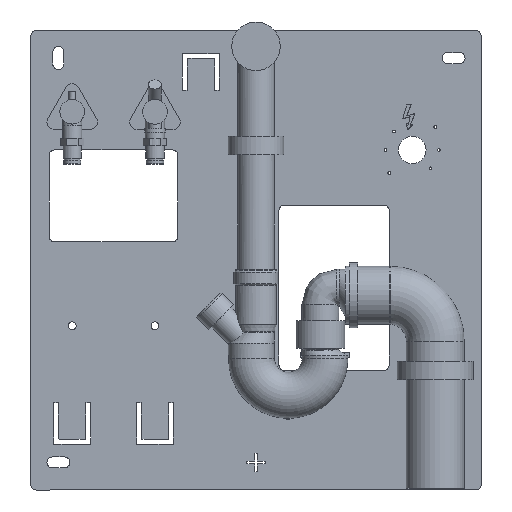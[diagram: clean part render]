
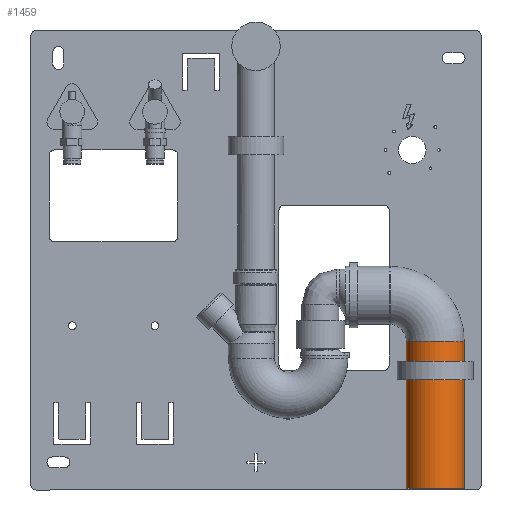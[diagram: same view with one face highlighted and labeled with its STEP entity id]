
A CAD part, front view. The second image highlights one B-rep face of the part: STEP entity #1459.
In plain terms, the highlighted cylindrical face has radius 31.5 mm (diameter 63 mm), a full revolution.
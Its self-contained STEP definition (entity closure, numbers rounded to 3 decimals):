
#1459=ADVANCED_FACE('',(#2960,#2961),#2962,.T.);
#2960=FACE_BOUND('',#5050,.T.);
#2961=FACE_BOUND('',#5051,.T.);
#2962=CYLINDRICAL_SURFACE('',#5052,31.5);
#5050=EDGE_LOOP('',(#6324));
#5051=EDGE_LOOP('',(#6325));
#5052=AXIS2_PLACEMENT_3D('',#6326,#6327,#6328);
#6324=ORIENTED_EDGE('',*,*,#9363,.T.);
#6325=ORIENTED_EDGE('',*,*,#9364,.F.);
#6326=CARTESIAN_POINT('',(253.235,-50.0,190.0));
#6327=DIRECTION('',(0.,0.,-1.0));
#6328=DIRECTION('',(0.,1.0,0.));
#9363=EDGE_CURVE('',#11902,#11902,#11903,.T.);
#9364=EDGE_CURVE('',#11904,#11904,#11905,.T.);
#11902=VERTEX_POINT('',#13622);
#11903=CIRCLE('',#13623,31.5);
#11904=VERTEX_POINT('',#13624);
#11905=CIRCLE('',#13625,31.5);
#13622=CARTESIAN_POINT('',(221.735,-50.0,350.));
#13623=AXIS2_PLACEMENT_3D('',#15541,#15542,#15543);
#13624=CARTESIAN_POINT('',(253.235,-18.5,190.0));
#13625=AXIS2_PLACEMENT_3D('',#15544,#15545,#15546);
#15541=CARTESIAN_POINT('',(253.235,-50.0,350.));
#15542=DIRECTION('',(0.0,-0.0,-1.0));
#15543=DIRECTION('',(1.0,0.,0.0));
#15544=CARTESIAN_POINT('',(253.235,-50.0,190.0));
#15545=DIRECTION('',(0.,0.,-1.0));
#15546=DIRECTION('',(0.,1.0,0.));
